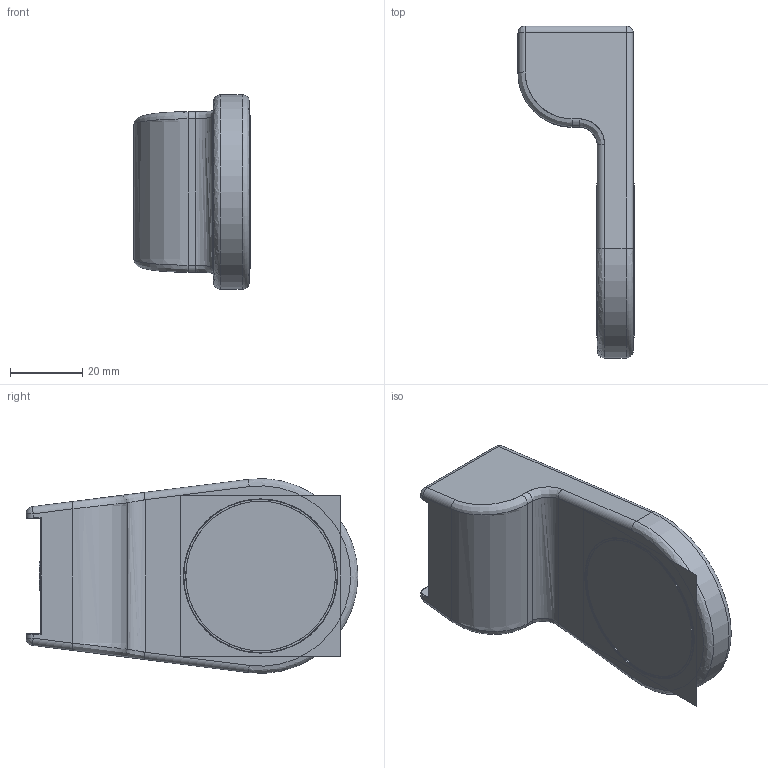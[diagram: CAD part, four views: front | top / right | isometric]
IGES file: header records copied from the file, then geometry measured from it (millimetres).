
Start section:  PTC IGES file: 6158102030.igs
Global section: file name: 6158102030.igs; native system: Pro/ENGINEER by Parametric Technology Corporation; preprocessor: 2010330; author: jrsaja; organization: Unknown; date: 20110512.162940; units: millimetre
Bounding box: 32.2 x 92 x 53.95 mm (x, y, z)
Surface area: 18237.4 mm2 (no closed solid volume)
Topology: 0 solids, 0 shells, 78 faces, 409 edges, 482 vertices
Faces by surface type: revolution 51, bspline 27
